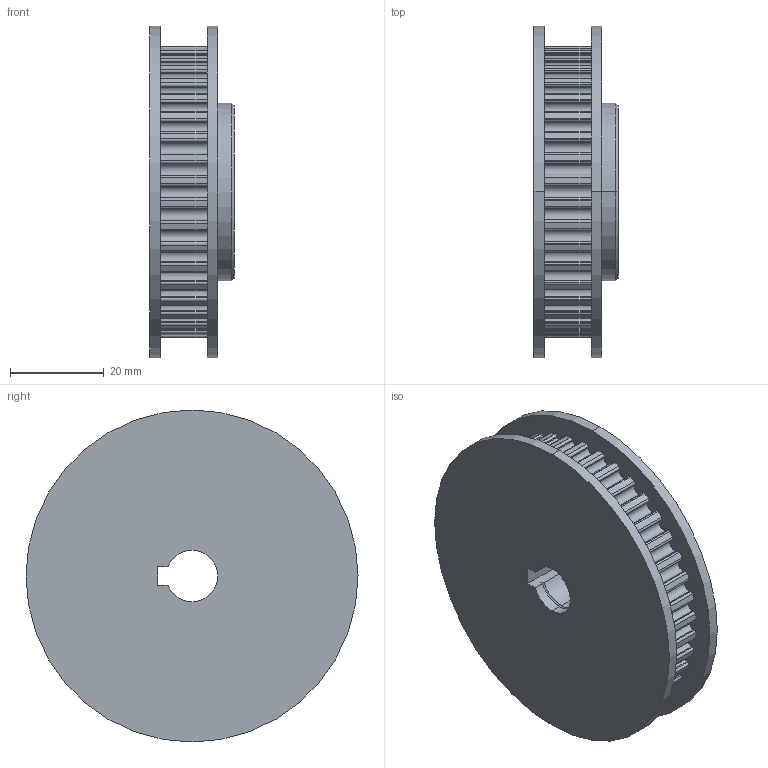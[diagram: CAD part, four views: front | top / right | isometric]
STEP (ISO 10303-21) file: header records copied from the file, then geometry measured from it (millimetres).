
FILE_DESCRIPTION (( 'STEP AP203' ), '1' );
FILE_NAME ('084.800.010.STEP', '2013-01-29T09:17:16', ( 'Alusic' ), ( 'Alusic' ), 'SwSTEP 2.0', 'SolidWorks 2011', '' );
FILE_SCHEMA (( 'CONFIG_CONTROL_DESIGN' ));
Length unit declared in the file: millimetre
Products named in the file (1): 084.800.010
Bounding box: 18 x 71 x 71 mm (x, y, z)
Volume: 48781.5 mm3; surface area: 14927.7 mm2
Topology: 1 solids, 1 shells, 308 faces, 903 edges, 600 vertices
Faces by surface type: cylinder 211, plane 89, cone 8
Entity records: 10514 total; most frequent: DIRECTION 1947, CARTESIAN_POINT 1824, ORIENTED_EDGE 1806, EDGE_CURVE 903, AXIS2_PLACEMENT_3D 739, VERTEX_POINT 600, LINE 469, VECTOR 469
